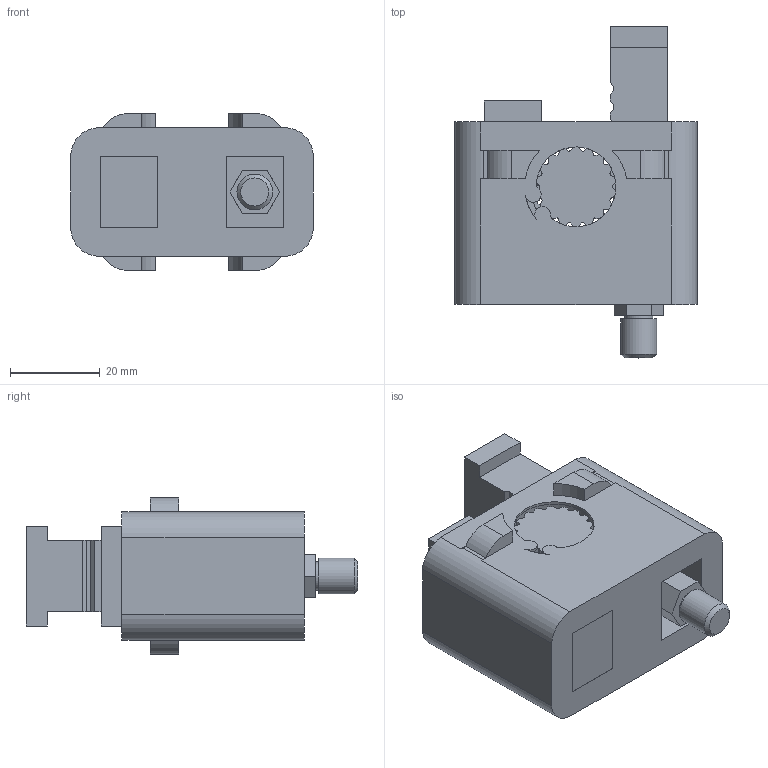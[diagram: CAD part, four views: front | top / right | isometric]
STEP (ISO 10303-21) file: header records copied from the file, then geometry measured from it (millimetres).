
FILE_DESCRIPTION(/* description */ ('STEP AP214'),/* implementation_level */ '2;1');
FILE_NAME(/* name */ 'AEB-10',/* time_stamp */ '2024-12-19T08:08:51+01:00',/* author */ ('License CC BY-ND 4.0'),/* organization */ ('CADENAS'),/* preprocessor_version */ 'ST-DEVELOPER v19.3',/* originating_system */ 'PARTsolutions',/* authorisation */ ' ');
FILE_SCHEMA (('AUTOMOTIVE_DESIGN {1 0 10303 214 3 1 1}'));
Length unit declared in the file: inch
Products named in the file (5): AEB-10; AEB-101; AEB-102; AEB-103; AEB-104
Assembly tree (4 placements, depth 2):
  AEB-10
    AEB-101
    AEB-102
    AEB-103
    AEB-104
Bounding box: 53.98 x 73.91 x 34.92 mm (x, y, z)
Volume: 63683.5 mm3; surface area: 23975.5 mm2
Topology: 4 solids, 4 shells, 242 faces, 695 edges, 463 vertices
Faces by surface type: plane 175, cylinder 65, cone 2
Full cylindrical faces by diameter (mm): 6.259 x1, 7.938 x1, 9.525 x1, 20.32 x1, 22.86 x2
Entity records: 7968 total; most frequent: CARTESIAN_POINT 1426, ORIENTED_EDGE 1360, DIRECTION 1311, EDGE_CURVE 680, LINE 515, VECTOR 515, VERTEX_POINT 457, AXIS2_PLACEMENT_3D 398
